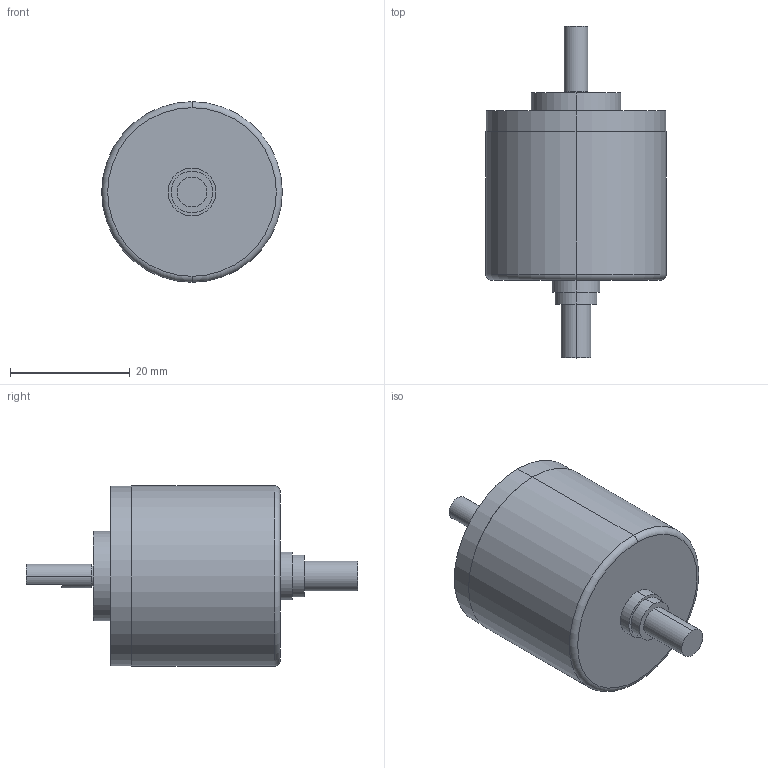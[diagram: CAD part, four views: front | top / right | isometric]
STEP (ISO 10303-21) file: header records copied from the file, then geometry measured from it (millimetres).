
FILE_DESCRIPTION (( 'STEP AP214' ), '1' );
FILE_NAME ('MOL30.STEP', '2012-06-06T11:23:51', ( '' ), ( '' ), 'SwSTEP 2.0', 'SolidWorks 2012', '' );
FILE_SCHEMA (( 'AUTOMOTIVE_DESIGN' ));
Length unit declared in the file: millimetre
Products named in the file (4): Lock washer DIN 6799 - 3.2_PreviewCfg; MOL30_Welle; MOL30_Basis; MOL30
Assembly tree (3 placements, depth 2):
  MOL30
    MOL30_Basis
    MOL30_Welle
    Lock washer DIN 6799 - 3.2_PreviewCfg
Bounding box: 30.2 x 55.5 x 30.2 mm (x, y, z)
Volume: 21029.7 mm3; surface area: 5139.6 mm2
Topology: 3 solids, 3 shells, 79 faces, 182 edges, 114 vertices
Faces by surface type: cylinder 46, plane 23, cone 8, torus 2
Entity records: 2614 total; most frequent: DIRECTION 442, CARTESIAN_POINT 373, ORIENTED_EDGE 348, AXIS2_PLACEMENT_3D 183, EDGE_CURVE 174, VERTEX_POINT 114, CIRCLE 98, EDGE_LOOP 92
